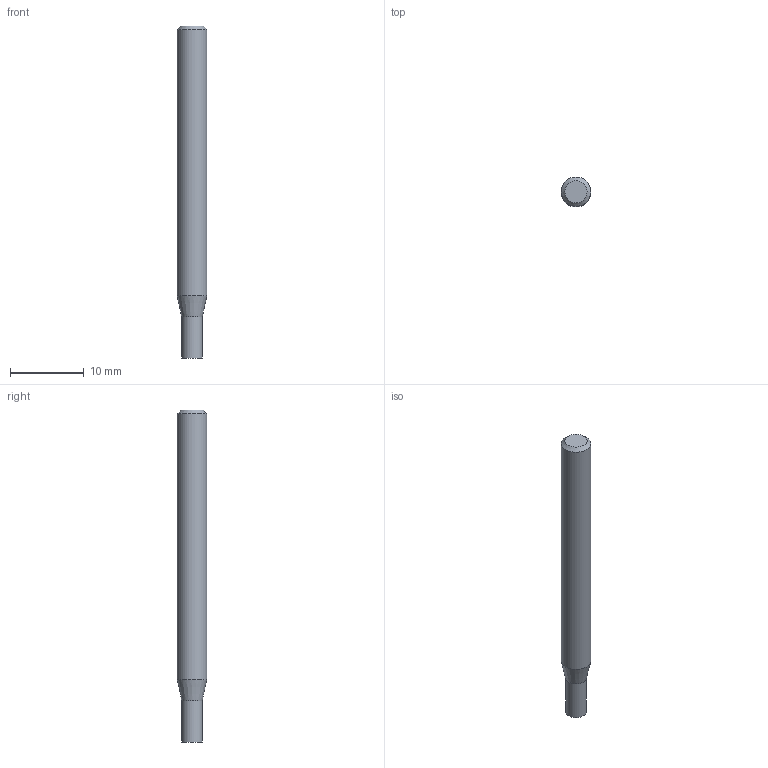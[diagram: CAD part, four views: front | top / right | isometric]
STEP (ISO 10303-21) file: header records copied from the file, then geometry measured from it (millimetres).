
FILE_DESCRIPTION((''),'2;1');
FILE_NAME('C:\Users\nsx150\AppData\Local\Temp\Mastercam 2021\E36A1X9CCL\TEMP.step','2023-04-21T15:12:36',(''),(''),'STEP Write','Mastercam 2021 ... CNC Software, Inc.','');
FILE_SCHEMA(('AUTOMOTIVE_DESIGN'));
Length unit declared in the file: millimetre
Products named in the file (1): None
Bounding box: 4 x 4 x 45 mm (x, y, z)
Volume: 518.6 mm3; surface area: 566.8 mm2
Topology: 2 solids, 2 shells, 8 faces, 10 edges, 6 vertices
Faces by surface type: plane 4, cylinder 2, cone 2
Full cylindrical faces by diameter (mm): 2.8 x1, 4 x1
Entity records: 190 total; most frequent: DIRECTION 32, CARTESIAN_POINT 22, AXIS2_PLACEMENT_3D 16, ORIENTED_EDGE 12, EDGE_LOOP 12, STYLED_ITEM 11, ADVANCED_FACE 8, VERTEX_POINT 6
